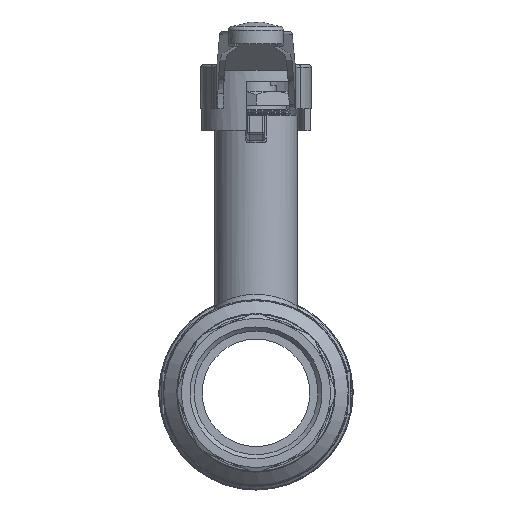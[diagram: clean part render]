
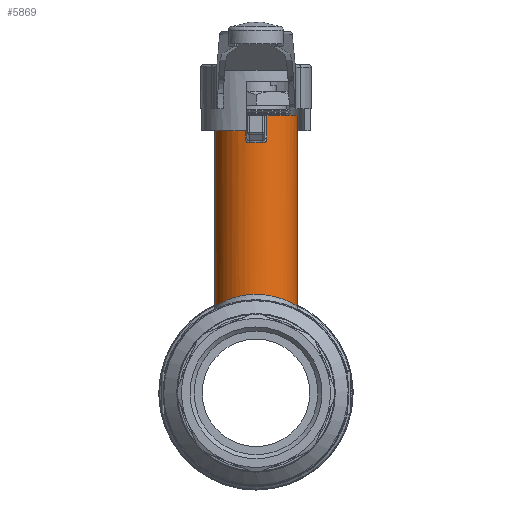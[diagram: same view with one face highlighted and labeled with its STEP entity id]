
A CAD part, left-side view. The second image highlights one B-rep face of the part: STEP entity #5869.
In plain terms, the highlighted cylindrical face has radius 15 mm (diameter 30 mm), a full revolution.
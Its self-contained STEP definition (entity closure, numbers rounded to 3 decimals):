
#128=ELLIPSE('',#6342,16.091,15.);
#232=LINE('',#9370,#550);
#233=LINE('',#9374,#551);
#550=VECTOR('',#7271,8.342);
#551=VECTOR('',#7276,8.342);
#912=B_SPLINE_CURVE_WITH_KNOTS('',3,(#9376,#9377,#9378,#9379,#9380,#9381),
 .UNSPECIFIED.,.F.,.F.,(4,1,1,4),(0.,0.082,0.163,
0.286),.UNSPECIFIED.);
#913=B_SPLINE_CURVE_WITH_KNOTS('',3,(#9384,#9385,#9386,#9387,#9388,#9389),
 .UNSPECIFIED.,.F.,.F.,(4,1,1,4),(0.,0.123,
0.204,0.286),.UNSPECIFIED.);
#914=B_SPLINE_CURVE_WITH_KNOTS('',3,(#9391,#9392,#9393,#9394,#9395,#9396,
#9397,#9398,#9399,#9400,#9401,#9402,#9403,#9404,#9405,#9406,#9407,#9408,
#9409),.UNSPECIFIED.,.T.,.F.,(4,1,1,1,1,1,1,1,1,1,1,1,1,1,1,1,4),(0.,
0.656,1.312,1.968,2.623,3.061,
3.498,3.935,4.372,4.81,5.247,
5.903,6.559,7.214,7.87,8.526,
9.182),.UNSPECIFIED.);
#982=CYLINDRICAL_SURFACE('',#6341,15.);
#1281=FACE_BOUND('',#1867,.T.);
#1436=FACE_OUTER_BOUND('',#1866,.T.);
#1866=EDGE_LOOP('',(#4260,#4261,#4262,#4263,#4264,#4265));
#1867=EDGE_LOOP('',(#4266));
#2386=CIRCLE('',#6319,15.);
#2756=VERTEX_POINT('',#9323);
#2758=VERTEX_POINT('',#9326);
#2773=VERTEX_POINT('',#9369);
#2774=VERTEX_POINT('',#9373);
#2775=VERTEX_POINT('',#9375);
#2776=VERTEX_POINT('',#9382);
#2777=VERTEX_POINT('',#9390);
#3345=EDGE_CURVE('',#2758,#2756,#2386,.T.);
#3363=EDGE_CURVE('',#2758,#2773,#232,.T.);
#3365=EDGE_CURVE('',#2774,#2756,#233,.T.);
#3366=EDGE_CURVE('',#2775,#2774,#912,.T.);
#3367=EDGE_CURVE('',#2776,#2775,#128,.T.);
#3368=EDGE_CURVE('',#2773,#2776,#913,.T.);
#3369=EDGE_CURVE('',#2777,#2777,#914,.T.);
#4260=ORIENTED_EDGE('',*,*,#3345,.T.);
#4261=ORIENTED_EDGE('',*,*,#3365,.F.);
#4262=ORIENTED_EDGE('',*,*,#3366,.F.);
#4263=ORIENTED_EDGE('',*,*,#3367,.F.);
#4264=ORIENTED_EDGE('',*,*,#3368,.F.);
#4265=ORIENTED_EDGE('',*,*,#3363,.F.);
#4266=ORIENTED_EDGE('',*,*,#3369,.F.);
#5869=ADVANCED_FACE('',(#1436,#1281),#982,.T.);
#6319=AXIS2_PLACEMENT_3D('',#9327,#7222,#7223);
#6341=AXIS2_PLACEMENT_3D('',#9372,#7274,#7275);
#6342=AXIS2_PLACEMENT_3D('',#9383,#7277,#7278);
#7222=DIRECTION('center_axis',(0.,0.,-1.));
#7223=DIRECTION('ref_axis',(-1.,0.,0.));
#7271=DIRECTION('',(0.,0.,-1.));
#7274=DIRECTION('center_axis',(0.,0.,1.));
#7275=DIRECTION('ref_axis',(-1.,0.,0.));
#7276=DIRECTION('',(0.,0.,1.));
#7277=DIRECTION('center_axis',(0.362,0.,0.932));
#7278=DIRECTION('ref_axis',(-0.932,0.,0.362));
#9323=CARTESIAN_POINT('',(-14.461,-3.984,100.8));
#9326=CARTESIAN_POINT('',(-14.461,3.984,100.8));
#9327=CARTESIAN_POINT('Origin',(0.,0.,100.8));
#9369=CARTESIAN_POINT('',(-14.461,3.984,92.458));
#9370=CARTESIAN_POINT('',(-14.461,3.984,0.));
#9372=CARTESIAN_POINT('Origin',(0.,0.,0.));
#9373=CARTESIAN_POINT('',(-14.461,-3.984,92.458));
#9374=CARTESIAN_POINT('',(-14.461,-3.984,0.));
#9375=CARTESIAN_POINT('',(-14.823,-2.297,90.683));
#9376=CARTESIAN_POINT('Ctrl Pts',(-14.823,-2.297,90.683));
#9377=CARTESIAN_POINT('Ctrl Pts',(-14.784,-2.549,90.668));
#9378=CARTESIAN_POINT('Ctrl Pts',(-14.691,-3.06,90.763));
#9379=CARTESIAN_POINT('Ctrl Pts',(-14.521,-3.78,91.361));
#9380=CARTESIAN_POINT('Ctrl Pts',(-14.461,-3.984,92.05));
#9381=CARTESIAN_POINT('Ctrl Pts',(-14.461,-3.984,92.458));
#9382=CARTESIAN_POINT('',(-14.823,2.297,90.683));
#9383=CARTESIAN_POINT('Origin',(0.,0.,84.928));
#9384=CARTESIAN_POINT('Ctrl Pts',(-14.461,3.984,92.458));
#9385=CARTESIAN_POINT('Ctrl Pts',(-14.461,3.984,92.05));
#9386=CARTESIAN_POINT('Ctrl Pts',(-14.521,3.777,91.357));
#9387=CARTESIAN_POINT('Ctrl Pts',(-14.692,3.057,90.763));
#9388=CARTESIAN_POINT('Ctrl Pts',(-14.784,2.549,90.668));
#9389=CARTESIAN_POINT('Ctrl Pts',(-14.823,2.297,90.683));
#9390=CARTESIAN_POINT('',(0.,-15.,31.449));
#9391=CARTESIAN_POINT('Ctrl Pts',(-0.001,-15.003,
31.446));
#9392=CARTESIAN_POINT('Ctrl Pts',(-2.27,-15.003,31.446));
#9393=CARTESIAN_POINT('Ctrl Pts',(-6.808,-13.926,32.143));
#9394=CARTESIAN_POINT('Ctrl Pts',(-12.081,-9.703,34.215));
#9395=CARTESIAN_POINT('Ctrl Pts',(-15.124,-3.516,35.812));
#9396=CARTESIAN_POINT('Ctrl Pts',(-15.123,2.741,35.812));
#9397=CARTESIAN_POINT('Ctrl Pts',(-13.148,7.667,34.775));
#9398=CARTESIAN_POINT('Ctrl Pts',(-10.355,11.152,33.51));
#9399=CARTESIAN_POINT('Ctrl Pts',(-6.655,13.692,32.237));
#9400=CARTESIAN_POINT('Ctrl Pts',(-2.306,15.054,31.417));
#9401=CARTESIAN_POINT('Ctrl Pts',(2.301,15.059,31.415));
#9402=CARTESIAN_POINT('Ctrl Pts',(7.388,13.458,32.378));
#9403=CARTESIAN_POINT('Ctrl Pts',(12.082,9.701,34.211));
#9404=CARTESIAN_POINT('Ctrl Pts',(15.127,3.518,35.816));
#9405=CARTESIAN_POINT('Ctrl Pts',(15.119,-3.532,35.809));
#9406=CARTESIAN_POINT('Ctrl Pts',(12.08,-9.704,34.214));
#9407=CARTESIAN_POINT('Ctrl Pts',(6.798,-13.934,32.14));
#9408=CARTESIAN_POINT('Ctrl Pts',(2.269,-15.002,31.446));
#9409=CARTESIAN_POINT('Ctrl Pts',(-0.001,-15.003,
31.446));
